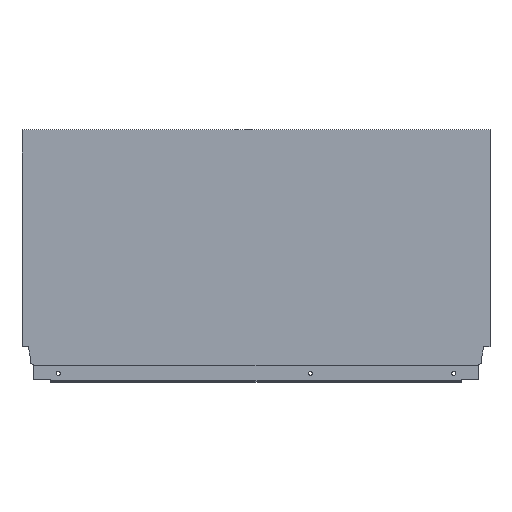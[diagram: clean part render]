
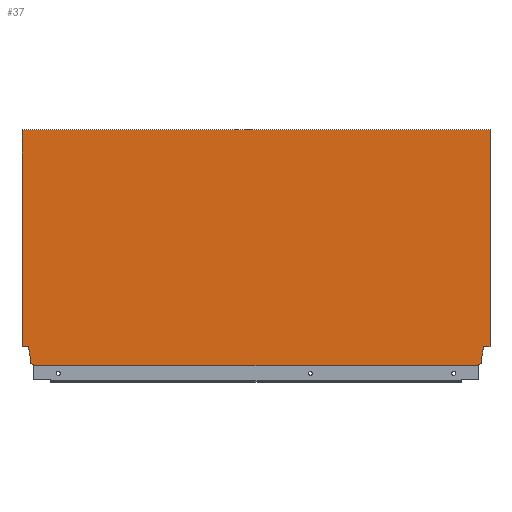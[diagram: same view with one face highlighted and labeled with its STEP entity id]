
A CAD part, top view. The second image highlights one B-rep face of the part: STEP entity #37.
In plain terms, the highlighted planar face has unit normal (0, 0, 1).
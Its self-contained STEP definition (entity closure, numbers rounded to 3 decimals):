
#37 = ADVANCED_FACE ( 'NONE', ( #315 ), #1233, .T. ) ;
#78 = EDGE_CURVE ( 'NONE', #820, #839, #265, .T. ) ;
#104 = EDGE_CURVE ( 'NONE', #817, #972, #504, .T. ) ;
#109 = EDGE_CURVE ( 'NONE', #872, #819, #655, .T. ) ;
#111 = EDGE_CURVE ( 'NONE', #853, #901, #550, .T. ) ;
#112 = EDGE_CURVE ( 'NONE', #817, #820, #574, .T. ) ;
#113 = EDGE_CURVE ( 'NONE', #975, #853, #792, .T. ) ;
#115 = EDGE_CURVE ( 'NONE', #872, #866, #691, .T. ) ;
#116 = EDGE_CURVE ( 'NONE', #832, #819, #585, .T. ) ;
#119 = EDGE_CURVE ( 'NONE', #838, #975, #618, .T. ) ;
#136 = EDGE_CURVE ( 'NONE', #839, #868, #745, .T. ) ;
#151 = EDGE_CURVE ( 'NONE', #868, #832, #1497, .T. ) ;
#174 = EDGE_CURVE ( 'NONE', #835, #972, #1536, .T. ) ;
#178 = EDGE_CURVE ( 'NONE', #901, #835, #1534, .T. ) ;
#195 = EDGE_CURVE ( 'NONE', #866, #838, #1513, .T. ) ;
#218 = AXIS2_PLACEMENT_3D ( 'NONE', #1234, #1105, #1118 ) ;
#265 = LINE ( 'NONE', #1415, #670 ) ;
#315 = FACE_OUTER_BOUND ( 'NONE', #686, .T. ) ;
#362 = VECTOR ( 'NONE', #1328, 1000. ) ;
#366 = ORIENTED_EDGE ( 'NONE', *, *, #174, .F. ) ;
#367 = ORIENTED_EDGE ( 'NONE', *, *, #104, .T. ) ;
#368 = ORIENTED_EDGE ( 'NONE', *, *, #112, .F. ) ;
#369 = ORIENTED_EDGE ( 'NONE', *, *, #78, .F. ) ;
#371 = ORIENTED_EDGE ( 'NONE', *, *, #136, .F. ) ;
#373 = ORIENTED_EDGE ( 'NONE', *, *, #151, .F. ) ;
#375 = ORIENTED_EDGE ( 'NONE', *, *, #116, .F. ) ;
#398 = ORIENTED_EDGE ( 'NONE', *, *, #119, .F. ) ;
#399 = ORIENTED_EDGE ( 'NONE', *, *, #195, .F. ) ;
#422 = VECTOR ( 'NONE', #1350, 1000. ) ;
#432 = ORIENTED_EDGE ( 'NONE', *, *, #109, .T. ) ;
#433 = ORIENTED_EDGE ( 'NONE', *, *, #115, .F. ) ;
#504 = LINE ( 'NONE', #1361, #548 ) ;
#537 = VECTOR ( 'NONE', #1287, 1000. ) ;
#548 = VECTOR ( 'NONE', #1360, 1000. ) ;
#550 = LINE ( 'NONE', #1356, #705 ) ;
#574 = LINE ( 'NONE', #1339, #591 ) ;
#575 = VECTOR ( 'NONE', #1347, 1000. ) ;
#585 = LINE ( 'NONE', #1351, #362 ) ;
#591 = VECTOR ( 'NONE', #1359, 1000. ) ;
#618 = LINE ( 'NONE', #1333, #774 ) ;
#639 = VECTOR ( 'NONE', #1331, 1000. ) ;
#655 = LINE ( 'NONE', #1348, #575 ) ;
#670 = VECTOR ( 'NONE', #1411, 1000. ) ;
#686 = EDGE_LOOP ( 'NONE', ( #432, #375, #373, #371, #369, #368, #367, #366, #729, #692, #747, #398, #399, #433 ) ) ;
#691 = LINE ( 'NONE', #1326, #639 ) ;
#692 = ORIENTED_EDGE ( 'NONE', *, *, #111, .F. ) ;
#705 = VECTOR ( 'NONE', #1355, 1000. ) ;
#729 = ORIENTED_EDGE ( 'NONE', *, *, #178, .F. ) ;
#745 = LINE ( 'NONE', #1290, #537 ) ;
#747 = ORIENTED_EDGE ( 'NONE', *, *, #113, .F. ) ;
#774 = VECTOR ( 'NONE', #1332, 1000. ) ;
#792 = LINE ( 'NONE', #1358, #422 ) ;
#817 = VERTEX_POINT ( 'NONE', #1155 ) ;
#819 = VERTEX_POINT ( 'NONE', #964 ) ;
#820 = VERTEX_POINT ( 'NONE', #967 ) ;
#832 = VERTEX_POINT ( 'NONE', #1151 ) ;
#835 = VERTEX_POINT ( 'NONE', #1150 ) ;
#838 = VERTEX_POINT ( 'NONE', #1149 ) ;
#839 = VERTEX_POINT ( 'NONE', #1152 ) ;
#853 = VERTEX_POINT ( 'NONE', #1445 ) ;
#866 = VERTEX_POINT ( 'NONE', #1432 ) ;
#868 = VERTEX_POINT ( 'NONE', #1435 ) ;
#872 = VERTEX_POINT ( 'NONE', #1442 ) ;
#901 = VERTEX_POINT ( 'NONE', #1259 ) ;
#942 = CARTESIAN_POINT ( 'NONE',  ( -13.004, 1.146, 8. ) ) ;
#945 = DIRECTION ( 'NONE',  ( 0., -1., 0. ) ) ;
#949 = CARTESIAN_POINT ( 'NONE',  ( -8.9, 2.64, 8. ) ) ;
#954 = DIRECTION ( 'NONE',  ( -0.94, -0.342, 0. ) ) ;
#964 = CARTESIAN_POINT ( 'NONE',  ( -517., 21.2, 8. ) ) ;
#967 = CARTESIAN_POINT ( 'NONE',  ( -503.996, 1.146, 8. ) ) ;
#972 = VERTEX_POINT ( 'NONE', #1005 ) ;
#975 = VERTEX_POINT ( 'NONE', #1007 ) ;
#1005 = CARTESIAN_POINT ( 'NONE',  ( -13.004, 0., 8. ) ) ;
#1007 = CARTESIAN_POINT ( 'NONE',  ( -7.06, 21.2, 8. ) ) ;
#1105 = DIRECTION ( 'NONE',  ( 0., 0., 1. ) ) ;
#1118 = DIRECTION ( 'NONE',  ( 1., 0., 0. ) ) ;
#1149 = CARTESIAN_POINT ( 'NONE',  ( 0., 21.2, 8. ) ) ;
#1150 = CARTESIAN_POINT ( 'NONE',  ( -13.004, 1.146, 8. ) ) ;
#1151 = CARTESIAN_POINT ( 'NONE',  ( -509.94, 21.2, 8. ) ) ;
#1152 = CARTESIAN_POINT ( 'NONE',  ( -508.1, 2.64, 8. ) ) ;
#1155 = CARTESIAN_POINT ( 'NONE',  ( -503.996, 0., 8. ) ) ;
#1208 = DIRECTION ( 'NONE',  ( 0., -1., 0. ) ) ;
#1233 = PLANE ( 'NONE',  #218 ) ;
#1234 = CARTESIAN_POINT ( 'NONE',  ( -517., 0., 8. ) ) ;
#1241 = CARTESIAN_POINT ( 'NONE',  ( -509.94, 21.2, 8. ) ) ;
#1249 = DIRECTION ( 'NONE',  ( -0.174, 0.985, 0. ) ) ;
#1259 = CARTESIAN_POINT ( 'NONE',  ( -8.9, 2.64, 8. ) ) ;
#1271 = CARTESIAN_POINT ( 'NONE',  ( 0., 0., 8. ) ) ;
#1287 = DIRECTION ( 'NONE',  ( 0., 1., 0. ) ) ;
#1290 = CARTESIAN_POINT ( 'NONE',  ( -508.1, 10.765, 8. ) ) ;
#1326 = CARTESIAN_POINT ( 'NONE',  ( -517., 260.7, 8. ) ) ;
#1328 = DIRECTION ( 'NONE',  ( -1., 0., 0. ) ) ;
#1331 = DIRECTION ( 'NONE',  ( 1., 0., 0. ) ) ;
#1332 = DIRECTION ( 'NONE',  ( -1., 0., 0. ) ) ;
#1333 = CARTESIAN_POINT ( 'NONE',  ( 0., 21.2, 8. ) ) ;
#1339 = CARTESIAN_POINT ( 'NONE',  ( -503.996, 1.146, 8. ) ) ;
#1347 = DIRECTION ( 'NONE',  ( 0., -1., 0. ) ) ;
#1348 = CARTESIAN_POINT ( 'NONE',  ( -517., 0., 8. ) ) ;
#1350 = DIRECTION ( 'NONE',  ( -0.174, -0.985, 0. ) ) ;
#1351 = CARTESIAN_POINT ( 'NONE',  ( -522., 21.2, 8. ) ) ;
#1355 = DIRECTION ( 'NONE',  ( 0., -1., 0. ) ) ;
#1356 = CARTESIAN_POINT ( 'NONE',  ( -8.9, 10.765, 8. ) ) ;
#1358 = CARTESIAN_POINT ( 'NONE',  ( -7.06, 21.2, 8. ) ) ;
#1359 = DIRECTION ( 'NONE',  ( 0., 1., 0. ) ) ;
#1360 = DIRECTION ( 'NONE',  ( 1., 0., 0. ) ) ;
#1361 = CARTESIAN_POINT ( 'NONE',  ( -517., 0., 8. ) ) ;
#1411 = DIRECTION ( 'NONE',  ( -0.94, 0.342, 0. ) ) ;
#1415 = CARTESIAN_POINT ( 'NONE',  ( -508.1, 2.64, 8. ) ) ;
#1432 = CARTESIAN_POINT ( 'NONE',  ( 0., 260.7, 8. ) ) ;
#1435 = CARTESIAN_POINT ( 'NONE',  ( -508.1, 10.765, 8. ) ) ;
#1442 = CARTESIAN_POINT ( 'NONE',  ( -517., 260.7, 8. ) ) ;
#1445 = CARTESIAN_POINT ( 'NONE',  ( -8.9, 10.765, 8. ) ) ;
#1497 = LINE ( 'NONE', #1241, #1500 ) ;
#1500 = VECTOR ( 'NONE', #1249, 1000. ) ;
#1512 = VECTOR ( 'NONE', #1208, 1000. ) ;
#1513 = LINE ( 'NONE', #1271, #1512 ) ;
#1533 = VECTOR ( 'NONE', #954, 1000. ) ;
#1534 = LINE ( 'NONE', #949, #1533 ) ;
#1535 = VECTOR ( 'NONE', #945, 1000. ) ;
#1536 = LINE ( 'NONE', #942, #1535 ) ;
